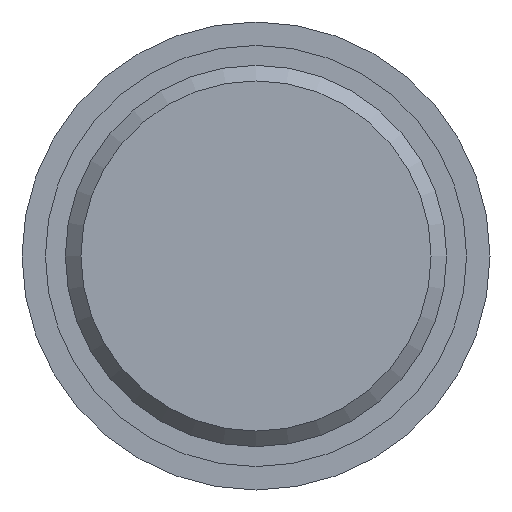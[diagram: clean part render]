
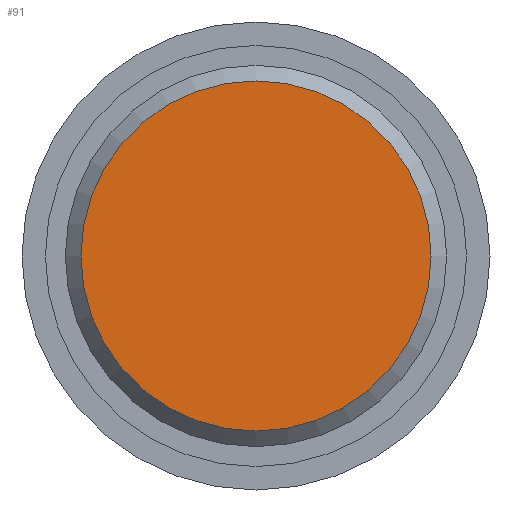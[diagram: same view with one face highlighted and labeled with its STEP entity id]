
A CAD part, front view. The second image highlights one B-rep face of the part: STEP entity #91.
In plain terms, the highlighted planar face has unit normal (0, -1, 0).
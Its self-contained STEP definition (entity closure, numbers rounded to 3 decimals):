
#91 = ADVANCED_FACE( '', ( #138 ), #139, .F. );
#138 = FACE_OUTER_BOUND( '', #193, .T. );
#139 = PLANE( '', #194 );
#193 = EDGE_LOOP( '', ( #308 ) );
#194 = AXIS2_PLACEMENT_3D( '', #309, #310, #311 );
#308 = ORIENTED_EDGE( '', *, *, #359, .T. );
#309 = CARTESIAN_POINT( '', ( 10.1, 0., 0. ) );
#310 = DIRECTION( '', ( 0., 1., 0. ) );
#311 = DIRECTION( '', ( 0., 0., 1. ) );
#359 = EDGE_CURVE( '', #411, #411, #412, .T. );
#411 = VERTEX_POINT( '', #485 );
#412 = CIRCLE( '', #486, 10.1 );
#485 = CARTESIAN_POINT( '', ( 0., 0., -10.1 ) );
#486 = AXIS2_PLACEMENT_3D( '', #538, #539, #540 );
#538 = CARTESIAN_POINT( '', ( 0., 0., 0. ) );
#539 = DIRECTION( '', ( 0., -1., 0. ) );
#540 = DIRECTION( '', ( 0., 0., -1. ) );
